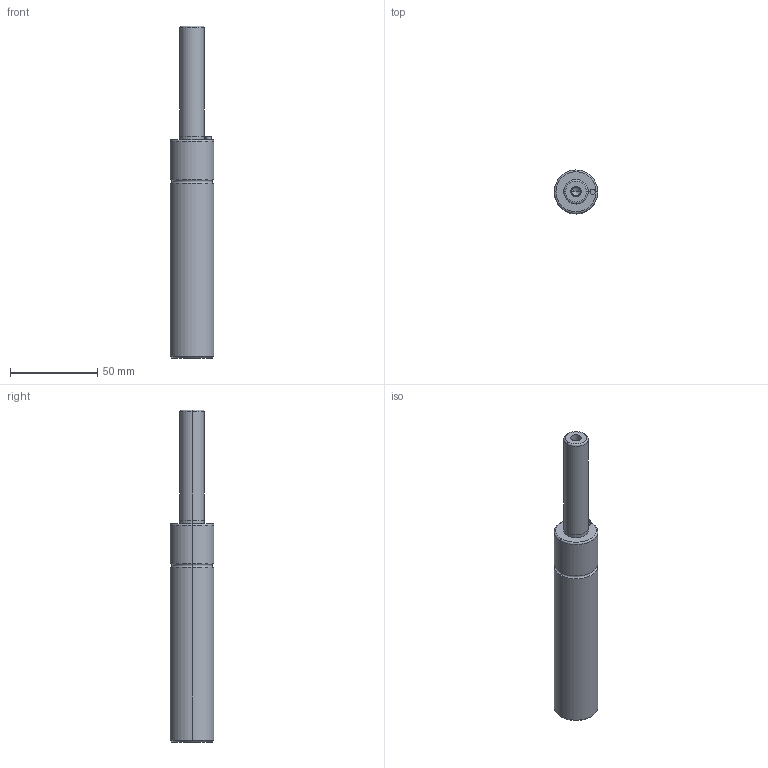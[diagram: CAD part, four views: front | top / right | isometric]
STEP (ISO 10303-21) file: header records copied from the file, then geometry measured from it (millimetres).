
FILE_DESCRIPTION(/* description */ (''),/* implementation_level */ '2;1');
FILE_NAME(/* name */ '3d_gsm25-63_03943_r00.stp',/* time_stamp */ '2011-01-10T14:15:17+09:00',/* author */ ('MISUMI'),/* organization */ (''),/* preprocessor_version */ 'ST-DEVELOPER v11',/* originating_system */ 'UGS - NX 5.0',/* authorisation */ '');
FILE_SCHEMA (('CONFIG_CONTROL_DESIGN'));
Length unit declared in the file: millimetre
Products named in the file (1): 3d_gsm25-63_03943_r00
Bounding box: 25 x 25 x 190 mm (x, y, z)
Volume: 70653.8 mm3; surface area: 14017.8 mm2
Topology: 1 solids, 1 shells, 36 faces, 74 edges, 42 vertices
Faces by surface type: cylinder 18, cone 6, plane 6, torus 6
Entity records: 1014 total; most frequent: DIRECTION 190, CARTESIAN_POINT 149, ORIENTED_EDGE 140, AXIS2_PLACEMENT_3D 83, EDGE_CURVE 70, CIRCLE 46, EDGE_LOOP 42, VERTEX_POINT 42
